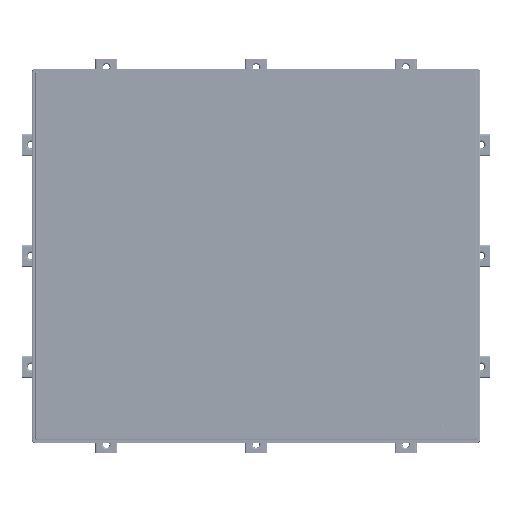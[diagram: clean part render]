
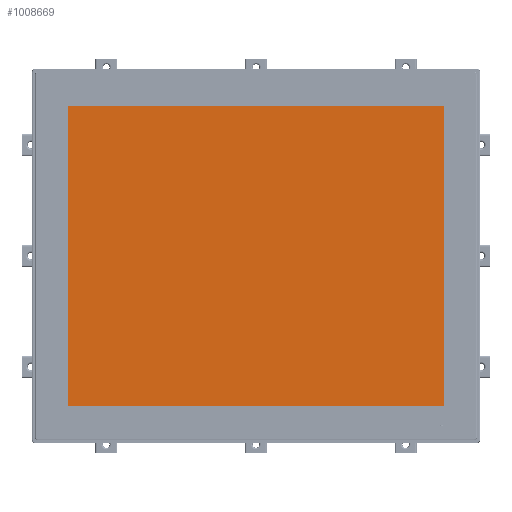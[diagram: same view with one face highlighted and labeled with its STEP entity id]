
A CAD part, top view. The second image highlights one B-rep face of the part: STEP entity #1008669.
In plain terms, the highlighted planar face has unit normal (0, 0, 1).
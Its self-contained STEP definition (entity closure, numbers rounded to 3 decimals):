
#325472=DIRECTION('',(0.,1.,0.));
#325473=VECTOR('',#325472,271.);
#325474=CARTESIAN_POINT('',(169.25,-135.5,5.2));
#325475=LINE('',#325474,#325473);
#325476=DIRECTION('',(1.,0.,0.));
#325477=VECTOR('',#325476,46.75);
#325478=CARTESIAN_POINT('',(122.5,-135.5,5.2));
#325479=LINE('',#325478,#325477);
#325480=DIRECTION('',(0.,1.,0.));
#325481=VECTOR('',#325480,0.25);
#325482=CARTESIAN_POINT('',(122.5,-135.75,5.2));
#325483=LINE('',#325482,#325481);
#325484=DIRECTION('',(0.,1.,0.));
#325485=VECTOR('',#325484,0.25);
#325486=CARTESIAN_POINT('',(117.5,-135.75,5.2));
#325487=LINE('',#325486,#325485);
#325488=DIRECTION('',(1.,0.,0.));
#325489=VECTOR('',#325488,235.);
#325490=CARTESIAN_POINT('',(-117.5,-135.5,5.2));
#325491=LINE('',#325490,#325489);
#325492=DIRECTION('',(0.,1.,0.));
#325493=VECTOR('',#325492,0.25);
#325494=CARTESIAN_POINT('',(-117.5,-135.75,5.2));
#325495=LINE('',#325494,#325493);
#325496=DIRECTION('',(0.,1.,0.));
#325497=VECTOR('',#325496,0.25);
#325498=CARTESIAN_POINT('',(-122.5,-135.75,5.2));
#325499=LINE('',#325498,#325497);
#325500=DIRECTION('',(1.,0.,0.));
#325501=VECTOR('',#325500,46.75);
#325502=CARTESIAN_POINT('',(-169.25,-135.5,5.2));
#325503=LINE('',#325502,#325501);
#325504=DIRECTION('',(0.,-1.,0.));
#325505=VECTOR('',#325504,271.);
#325506=CARTESIAN_POINT('',(-169.25,135.5,5.2));
#325507=LINE('',#325506,#325505);
#325508=DIRECTION('',(-1.,0.,0.));
#325509=VECTOR('',#325508,338.5);
#325510=CARTESIAN_POINT('',(169.25,135.5,5.2));
#325511=LINE('',#325510,#325509);
#348307=DIRECTION('',(-1.,0.,0.));
#348308=VECTOR('',#348307,5.);
#348309=CARTESIAN_POINT('',(-117.5,-135.75,5.2));
#348310=LINE('',#348309,#348308);
#348315=DIRECTION('',(-1.,0.,0.));
#348316=VECTOR('',#348315,5.);
#348317=CARTESIAN_POINT('',(122.5,-135.75,5.2));
#348318=LINE('',#348317,#348316);
#456580=CARTESIAN_POINT('',(169.25,-135.5,5.2));
#456581=CARTESIAN_POINT('',(169.25,135.5,5.2));
#456582=VERTEX_POINT('',#456580);
#456583=VERTEX_POINT('',#456581);
#456584=CARTESIAN_POINT('',(-169.25,-135.5,5.2));
#456585=CARTESIAN_POINT('',(-122.5,-135.5,5.2));
#456586=VERTEX_POINT('',#456584);
#456587=VERTEX_POINT('',#456585);
#456588=CARTESIAN_POINT('',(-117.5,-135.5,5.2));
#456589=CARTESIAN_POINT('',(117.5,-135.5,5.2));
#456590=VERTEX_POINT('',#456588);
#456591=VERTEX_POINT('',#456589);
#456592=CARTESIAN_POINT('',(122.5,-135.5,5.2));
#456593=VERTEX_POINT('',#456592);
#456594=CARTESIAN_POINT('',(-169.25,135.5,5.2));
#456595=VERTEX_POINT('',#456594);
#456596=CARTESIAN_POINT('',(-122.5,-135.75,5.2));
#456597=VERTEX_POINT('',#456596);
#456598=CARTESIAN_POINT('',(-117.5,-135.75,5.2));
#456599=VERTEX_POINT('',#456598);
#456600=CARTESIAN_POINT('',(117.5,-135.75,5.2));
#456601=VERTEX_POINT('',#456600);
#456602=CARTESIAN_POINT('',(122.5,-135.75,5.2));
#456603=VERTEX_POINT('',#456602);
#1008639=CARTESIAN_POINT('',(0.,0.,5.2));
#1008640=DIRECTION('',(0.,0.,1.));
#1008641=DIRECTION('',(1.,0.,0.));
#1008642=AXIS2_PLACEMENT_3D('',#1008639,#1008640,#1008641);
#1008643=PLANE('',#1008642);
#1008644=ORIENTED_EDGE('',*,*,#1008622,.F.);
#1008646=ORIENTED_EDGE('',*,*,#1008645,.F.);
#1008648=ORIENTED_EDGE('',*,*,#1008647,.F.);
#1008650=ORIENTED_EDGE('',*,*,#1008649,.T.);
#1008652=ORIENTED_EDGE('',*,*,#1008651,.T.);
#1008654=ORIENTED_EDGE('',*,*,#1008653,.F.);
#1008656=ORIENTED_EDGE('',*,*,#1008655,.F.);
#1008658=ORIENTED_EDGE('',*,*,#1008657,.T.);
#1008660=ORIENTED_EDGE('',*,*,#1008659,.T.);
#1008662=ORIENTED_EDGE('',*,*,#1008661,.F.);
#1008664=ORIENTED_EDGE('',*,*,#1008663,.F.);
#1008666=ORIENTED_EDGE('',*,*,#1008665,.F.);
#1008667=EDGE_LOOP('',(#1008644,#1008646,#1008648,#1008650,#1008652,#1008654,
#1008656,#1008658,#1008660,#1008662,#1008664,#1008666));
#1008668=FACE_OUTER_BOUND('',#1008667,.F.);
#1008669=ADVANCED_FACE('',(#1008668),#1008643,.T.);
#1008622=EDGE_CURVE('',#456582,#456583,#325475,.T.);
#1008645=EDGE_CURVE('',#456593,#456582,#325479,.T.);
#1008647=EDGE_CURVE('',#456603,#456593,#325483,.T.);
#1008649=EDGE_CURVE('',#456603,#456601,#348318,.T.);
#1008651=EDGE_CURVE('',#456601,#456591,#325487,.T.);
#1008653=EDGE_CURVE('',#456590,#456591,#325491,.T.);
#1008655=EDGE_CURVE('',#456599,#456590,#325495,.T.);
#1008657=EDGE_CURVE('',#456599,#456597,#348310,.T.);
#1008659=EDGE_CURVE('',#456597,#456587,#325499,.T.);
#1008661=EDGE_CURVE('',#456586,#456587,#325503,.T.);
#1008663=EDGE_CURVE('',#456595,#456586,#325507,.T.);
#1008665=EDGE_CURVE('',#456583,#456595,#325511,.T.);
